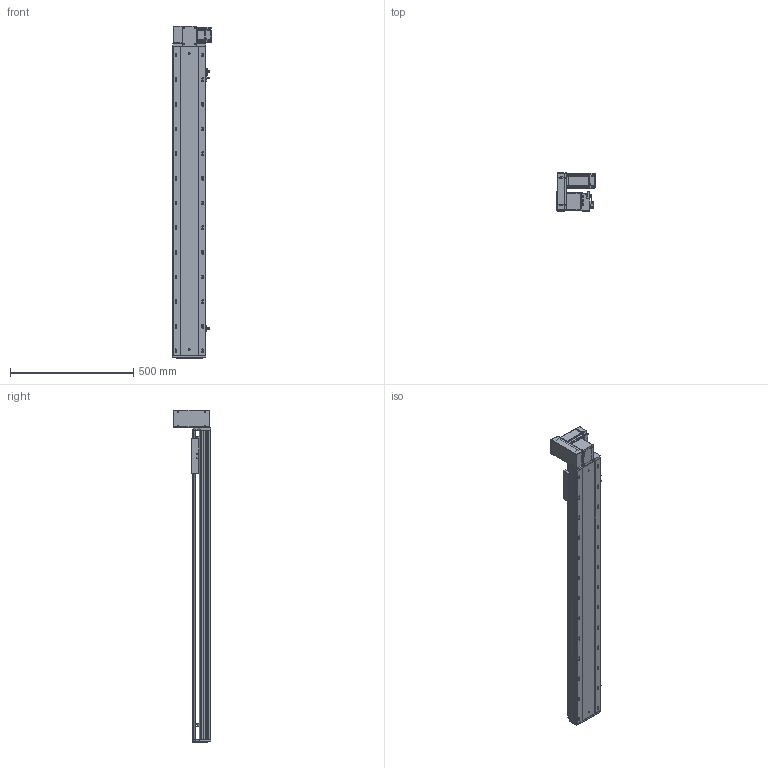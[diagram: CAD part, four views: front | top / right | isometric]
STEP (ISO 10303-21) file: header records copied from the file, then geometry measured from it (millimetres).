
FILE_DESCRIPTION (( 'STEP AP203' ), '1' );
FILE_NAME ('RY140-T-300-UL.SLDASM_1000.step', '2021-03-01T07:43:50', ( '盈信电脑' ), ( '东莞市道滘镇水果街19号' ), 'SwSTEP 2.0', 'SolidWorks 2012', '' );
FILE_SCHEMA (( 'CONFIG_CONTROL_DESIGN' ));
Length unit declared in the file: millimetre
Products named in the file (18): 滅袉蝶18-10; RY140-T翋肮謫裔啣; RY140-T-300-UL.SLDASM_1000; RY120-T蹟翐M4; RY140-T萇儂欶; RY120-T主同步轮轴承压盖; 侂狟400W侜督萇儂; RY140-T萇儂假蚾啣; 15; RY140-T翋肮祭謫盓傅釱; RY120外置感应片(140共用）; RY120-T肮祭湍揤踡輸1; 覜茼ん672; RY120-T肮祭湍揤踡輸2; RY140-T-300-DL倰第奻裔啣_1000; RY140肮祭謫臏賑輸; RY140綴裔啣; RY140-T-300-DL倰第菁釱_1000
Assembly tree (23 placements, depth 3):
  RY140-T-300-UL.SLDASM_1000
    RY140-T-300-DL倰第菁釱_1000
    RY140肮祭謫臏賑輸
    RY140-T-300-DL倰第奻裔啣_1000
    RY140綴裔啣
    覜茼ん672  x3
    RY120外置感应片(140共用）
    RY120-T肮祭湍揤踡輸2
    RY120-T肮祭湍揤踡輸1
    RY140-T翋肮祭謫盓傅釱
    RY140-T萇儂假蚾啣
    侂狟400W侜督萇儂
      15
    RY120-T主同步轮轴承压盖
    RY120-T蹟翐M4  x4
    RY140-T萇儂欶
    滅袉蝶18-10  x2
    RY140-T翋肮謫裔啣
Bounding box: 157 x 152.5 x 1346 mm (x, y, z)
Volume: 3988029.9 mm3; surface area: 1525548.4 mm2
Topology: 22 solids, 22 shells, 2771 faces, 7669 edges, 4926 vertices
Faces by surface type: plane 1385, cylinder 1064, cone 222, bspline 100
Entity records: 88707 total; most frequent: CARTESIAN_POINT 21867, ORIENTED_EDGE 13818, DIRECTION 13029, EDGE_CURVE 6909, VERTEX_POINT 4525, AXIS2_PLACEMENT_3D 4352, LINE 4325, VECTOR 4325
